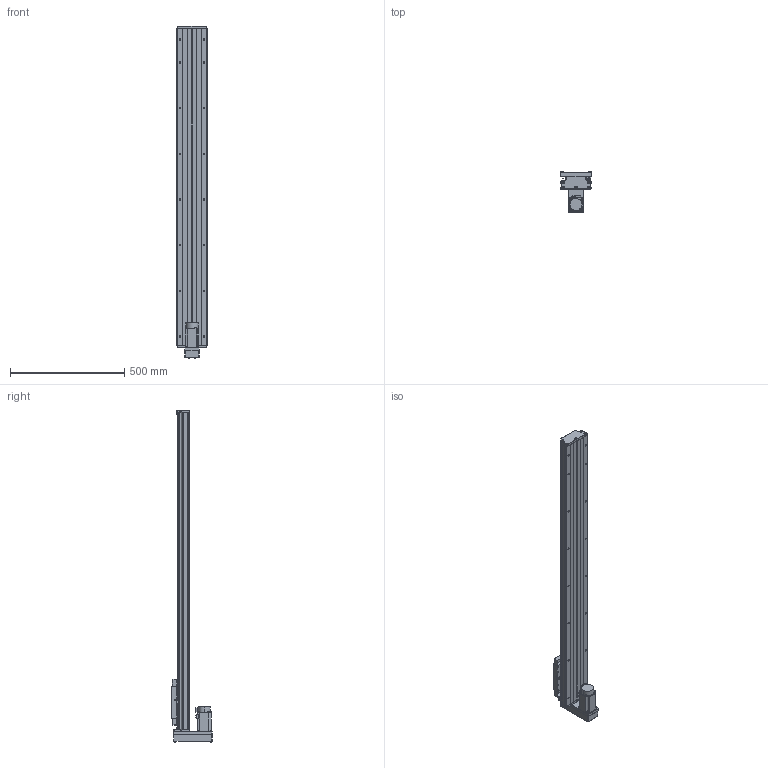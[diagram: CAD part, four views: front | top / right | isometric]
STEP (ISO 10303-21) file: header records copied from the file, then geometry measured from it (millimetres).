
FILE_DESCRIPTION (( 'STEP AP203' ), '1' );
FILE_NAME ('GTH14-1150-BM-M40-C4.step', '2023-06-30T08:44:28', ( '微软用户' ), ( '微软中国' ), 'SwSTEP 2.0', 'SolidWorks 2020', '' );
FILE_SCHEMA (( 'CONFIG_CONTROL_DESIGN' ));
Length unit declared in the file: millimetre
Products named in the file (19): GBT 70.2-M3¡Á5_M3¡Á6; CTHA60-017; す晦芛蹟隊 M3℅5; GTH14-001_1150; EE_SX911P_R; HG-KN43J-S100; GTH14-002_GTH14-002; CTHA60-016; GBT 70.2-M4¡Á35_M4¡Á35; GTH14-004; GBT 70.1-M3℅5; GTH14-015-2_CTHA86-015-2; GTH14-005; GBT77-2000 M3×3; GTH14-033; GB1155-6X6; GTH14-031; GTH14-1150-BM-M40-C4; GBT70.1 M5℅16
Assembly tree (58 placements, depth 2):
  GTH14-1150-BM-M40-C4
    GTH14-001_1150
    GTH14-002_GTH14-002
    GTH14-004
    GTH14-005
    GB1155-6X6  x2
    GBT70.1 M5℅16  x10
    CTHA60-017  x3
    EE_SX911P_R  x3
    CTHA60-016  x2
    GBT 70.1-M3℅5  x6
    GBT77-2000 M3×3  x6
    GTH14-031
    GBT 70.2-M3¡Á5_M3¡Á6  x8
    す晦芛蹟隊 M3℅5  x6
    HG-KN43J-S100
    GBT 70.2-M4¡Á35_M4¡Á35  x4
    GTH14-015-2_CTHA86-015-2
    GTH14-033
Bounding box: 135 x 177.5 x 1454.2 mm (x, y, z)
Volume: 7684188.2 mm3; surface area: 1221058.6 mm2
Topology: 61 solids, 61 shells, 2483 faces, 5905 edges, 3642 vertices
Faces by surface type: plane 1313, cylinder 680, cone 314, torus 124, sphere 32, bspline 20
Entity records: 45082 total; most frequent: CARTESIAN_POINT 10007, DIRECTION 6669, ORIENTED_EDGE 6500, EDGE_CURVE 3250, AXIS2_PLACEMENT_3D 2296, VECTOR 2077, LINE 2077, VERTEX_POINT 2060
